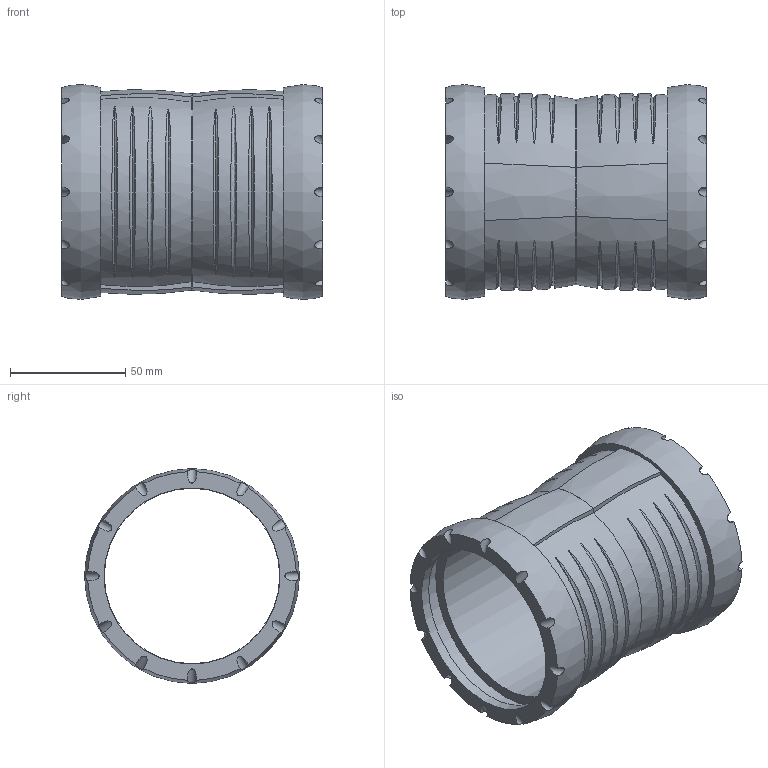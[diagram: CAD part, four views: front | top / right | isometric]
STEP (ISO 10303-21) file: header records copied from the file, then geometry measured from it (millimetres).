
FILE_DESCRIPTION(/* description */ (''),/* implementation_level */ '2;1');
FILE_NAME(/* name */ 'H:\Geberit-Teile\Export\Doppelsteckmuffe\stp\393317.stp',/* time_stamp */ '2017-02-14T08:58:04+01:00',/* author */ ('seihe2'),/* organization */ (''),/* preprocessor_version */ 'ST-DEVELOPER v15.2',/* originating_system */ 'Autodesk Inventor 2014',/* authorisation */ '');
FILE_SCHEMA (('AUTOMOTIVE_DESIGN { 1 0 10303 214 3 1 1 }'));
Length unit declared in the file: millimetre
Products named in the file (1): 393317
Bounding box: 113 x 93 x 93 mm (x, y, z)
Volume: 138508.6 mm3; surface area: 71579.9 mm2
Topology: 2 solids, 2 shells, 86 faces, 216 edges, 156 vertices
Faces by surface type: bspline 46, cylinder 30, plane 10
Full cylindrical faces by diameter (mm): 75.9 x2, 76.2 x2, 85 x2
Entity records: 7285 total; most frequent: CARTESIAN_POINT 5435, ORIENTED_EDGE 416, DIRECTION 250, EDGE_CURVE 208, VERTEX_POINT 154, AXIS2_PLACEMENT_3D 125, B_SPLINE_CURVE_WITH_KNOTS 122, EDGE_LOOP 118
